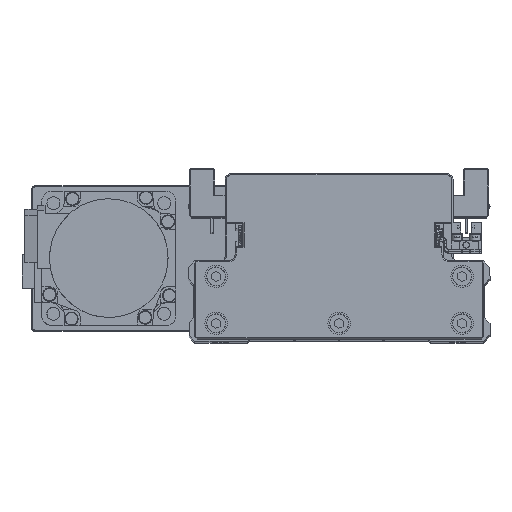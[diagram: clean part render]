
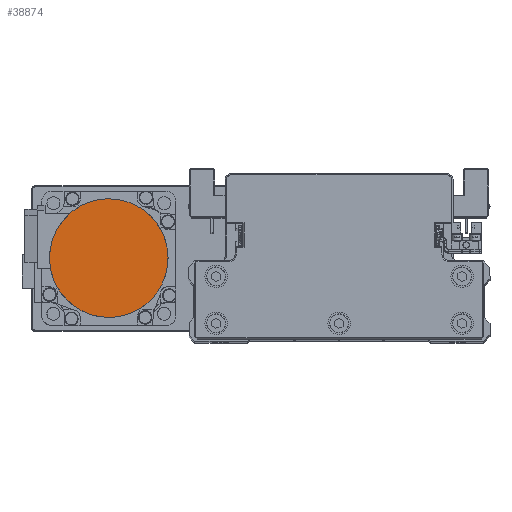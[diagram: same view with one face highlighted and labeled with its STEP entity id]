
A CAD part, top view. The second image highlights one B-rep face of the part: STEP entity #38874.
In plain terms, the highlighted planar face has unit normal (0, 0, 1) as drawn and (0, 0, -1) by its records, which use the part's own axes.
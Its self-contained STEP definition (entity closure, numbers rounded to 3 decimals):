
#730 = DIRECTION ( 'NONE',  ( 1., 0., 0. ) ) ;
#1499 = CARTESIAN_POINT ( 'NONE',  ( -8.539, -25.147, -109.7 ) ) ;
#1697 = CARTESIAN_POINT ( 'NONE',  ( 21.07, -16.165, -109.7 ) ) ;
#2601 = CARTESIAN_POINT ( 'NONE',  ( 17.512, 19.965, -109.7 ) ) ;
#2809 = CARTESIAN_POINT ( 'NONE',  ( -13.28, 22.998, -109.7 ) ) ;
#3777 = PLANE ( 'NONE',  #3958 ) ;
#3958 = AXIS2_PLACEMENT_3D ( 'NONE', #16176, #28634, #730 ) ;
#4529 = CARTESIAN_POINT ( 'NONE',  ( -16.165, -21.07, -109.7 ) ) ;
#4733 = CARTESIAN_POINT ( 'NONE',  ( 16.165, -21.07, -109.7 ) ) ;
#5639 = CARTESIAN_POINT ( 'NONE',  ( 22.998, 13.28, -109.7 ) ) ;
#5836 = CARTESIAN_POINT ( 'NONE',  ( -6.871, 25.652, -109.7 ) ) ;
#6042 = CARTESIAN_POINT ( 'NONE',  ( -26.5, 1.734, -109.7 ) ) ;
#7579 = CARTESIAN_POINT ( 'NONE',  ( -21.07, -16.165, -109.7 ) ) ;
#7781 = CARTESIAN_POINT ( 'NONE',  ( 8.539, -25.147, -109.7 ) ) ;
#7990 = CARTESIAN_POINT ( 'NONE',  ( 26.5, 0., -109.7 ) ) ;
#8693 = CARTESIAN_POINT ( 'NONE',  ( 25.652, 6.871, -109.7 ) ) ;
#8890 = CARTESIAN_POINT ( 'NONE',  ( 1.734, 26.5, -109.7 ) ) ;
#9092 = CARTESIAN_POINT ( 'NONE',  ( -25.147, 8.539, -109.7 ) ) ;
#10630 = CARTESIAN_POINT ( 'NONE',  ( -25.147, -8.539, -109.7 ) ) ;
#10833 = CARTESIAN_POINT ( 'NONE',  ( 1.734, -26.5, -109.7 ) ) ;
#11036 = CARTESIAN_POINT ( 'NONE',  ( 25.652, -6.871, -109.7 ) ) ;
#11732 = CARTESIAN_POINT ( 'NONE',  ( 26.5, 0., -109.7 ) ) ;
#11946 = CARTESIAN_POINT ( 'NONE',  ( 8.539, 25.147, -109.7 ) ) ;
#12142 = CARTESIAN_POINT ( 'NONE',  ( -21.07, 16.165, -109.7 ) ) ;
#13692 = CARTESIAN_POINT ( 'NONE',  ( -26.5, -1.734, -109.7 ) ) ;
#13898 = CARTESIAN_POINT ( 'NONE',  ( -6.871, -25.652, -109.7 ) ) ;
#14099 = CARTESIAN_POINT ( 'NONE',  ( 22.998, -13.28, -109.7 ) ) ;
#15001 = CARTESIAN_POINT ( 'NONE',  ( 16.165, 21.07, -109.7 ) ) ;
#15209 = CARTESIAN_POINT ( 'NONE',  ( -16.165, 21.07, -109.7 ) ) ;
#16176 = CARTESIAN_POINT ( 'NONE',  ( 0., 0., -109.7 ) ) ;
#16956 = CARTESIAN_POINT ( 'NONE',  ( -13.28, -22.998, -109.7 ) ) ;
#17171 = CARTESIAN_POINT ( 'NONE',  ( 17.512, -19.965, -109.7 ) ) ;
#18064 = CARTESIAN_POINT ( 'NONE',  ( 21.07, 16.165, -109.7 ) ) ;
#18268 = CARTESIAN_POINT ( 'NONE',  ( -8.539, 25.147, -109.7 ) ) ;
#18475 = CARTESIAN_POINT ( 'NONE',  ( -26.5, 0., -109.7 ) ) ;
#18706 = VERTEX_POINT ( 'NONE', #33440 ) ;
#19892 = EDGE_LOOP ( 'NONE', ( #38258, #25385 ) ) ;
#20021 = CARTESIAN_POINT ( 'NONE',  ( -19.965, -17.512, -109.7 ) ) ;
#20223 = CARTESIAN_POINT ( 'NONE',  ( 11.744, -23.819, -109.7 ) ) ;
#21134 = CARTESIAN_POINT ( 'NONE',  ( 25.147, 8.539, -109.7 ) ) ;
#21334 = CARTESIAN_POINT ( 'NONE',  ( -1.734, 26.5, -109.7 ) ) ;
#21537 = CARTESIAN_POINT ( 'NONE',  ( -25.652, 6.871, -109.7 ) ) ;
#22106 = EDGE_CURVE ( 'NONE', #18706, #31000, #31108, .T. ) ;
#22428 = B_SPLINE_CURVE_WITH_KNOTS ( 'NONE', 3,
 ( #11732, #24202, #36641, #8693, #21134, #33579, #5639, #18064, #30509, #2601, #15001, #27451, #39934, #11946, #24408, #36846, #8890, #21334, #33779, #5836, #18268, #30725, #2809, #15209, #27658, #40135, #12142, #24607, #37045, #9092, #21537, #33982, #6042, #18475 ),
 .UNSPECIFIED., .F., .F.,
 ( 4, 2, 2, 2, 2, 2, 2, 2, 2, 2, 2, 2, 2, 2, 2, 2, 4 ),
 ( 0., 0.062, 0.125, 0.187, 0.25, 0.312, 0.375, 0.437, 0.5, 0.562, 0.625, 0.687, 0.75, 0.813, 0.875, 0.938, 1. ),
 .UNSPECIFIED. ) ;
#23089 = CARTESIAN_POINT ( 'NONE',  ( -23.819, -11.744, -109.7 ) ) ;
#23285 = CARTESIAN_POINT ( 'NONE',  ( 3.469, -26.329, -109.7 ) ) ;
#23493 = CARTESIAN_POINT ( 'NONE',  ( 26.329, -3.469, -109.7 ) ) ;
#24202 = CARTESIAN_POINT ( 'NONE',  ( 26.5, 1.734, -109.7 ) ) ;
#24408 = CARTESIAN_POINT ( 'NONE',  ( 6.871, 25.652, -109.7 ) ) ;
#24607 = CARTESIAN_POINT ( 'NONE',  ( -22.998, 13.28, -109.7 ) ) ;
#25385 = ORIENTED_EDGE ( 'NONE', *, *, #22106, .F. ) ;
#26157 = CARTESIAN_POINT ( 'NONE',  ( -26.329, -3.469, -109.7 ) ) ;
#26355 = CARTESIAN_POINT ( 'NONE',  ( -3.469, -26.329, -109.7 ) ) ;
#26549 = CARTESIAN_POINT ( 'NONE',  ( 23.819, -11.744, -109.7 ) ) ;
#27404 = EDGE_CURVE ( 'NONE', #31000, #18706, #22428, .T. ) ;
#27451 = CARTESIAN_POINT ( 'NONE',  ( 13.28, 22.998, -109.7 ) ) ;
#27658 = CARTESIAN_POINT ( 'NONE',  ( -17.512, 19.965, -109.7 ) ) ;
#28634 = DIRECTION ( 'NONE',  ( 0., 0., 1. ) ) ;
#29405 = CARTESIAN_POINT ( 'NONE',  ( -11.744, -23.819, -109.7 ) ) ;
#29605 = CARTESIAN_POINT ( 'NONE',  ( 19.965, -17.512, -109.7 ) ) ;
#30509 = CARTESIAN_POINT ( 'NONE',  ( 19.965, 17.512, -109.7 ) ) ;
#30725 = CARTESIAN_POINT ( 'NONE',  ( -11.744, 23.819, -109.7 ) ) ;
#31000 = VERTEX_POINT ( 'NONE', #35339 ) ;
#31108 = B_SPLINE_CURVE_WITH_KNOTS ( 'NONE', 3,
 ( #32287, #13692, #26157, #38610, #10630, #23089, #35527, #7579, #20021, #32484, #4529, #16956, #29405, #1499, #13898, #26355, #38809, #10833, #23285, #35729, #7781, #20223, #32691, #4733, #17171, #29605, #1697, #14099, #26549, #39006, #11036, #23493, #35934, #7990 ),
 .UNSPECIFIED., .F., .F.,
 ( 4, 2, 2, 2, 2, 2, 2, 2, 2, 2, 2, 2, 2, 2, 2, 2, 4 ),
 ( 0., 0.063, 0.125, 0.188, 0.25, 0.312, 0.375, 0.437, 0.5, 0.562, 0.625, 0.687, 0.75, 0.813, 0.875, 0.938, 1. ),
 .UNSPECIFIED. ) ;
#31715 = FACE_OUTER_BOUND ( 'NONE', #19892, .T. ) ;
#32287 = CARTESIAN_POINT ( 'NONE',  ( -26.5, 0., -109.7 ) ) ;
#32484 = CARTESIAN_POINT ( 'NONE',  ( -17.512, -19.965, -109.7 ) ) ;
#32691 = CARTESIAN_POINT ( 'NONE',  ( 13.28, -22.998, -109.7 ) ) ;
#33440 = CARTESIAN_POINT ( 'NONE',  ( -26.5, 0., -109.7 ) ) ;
#33579 = CARTESIAN_POINT ( 'NONE',  ( 23.819, 11.744, -109.7 ) ) ;
#33779 = CARTESIAN_POINT ( 'NONE',  ( -3.469, 26.329, -109.7 ) ) ;
#33982 = CARTESIAN_POINT ( 'NONE',  ( -26.329, 3.469, -109.7 ) ) ;
#35339 = CARTESIAN_POINT ( 'NONE',  ( 26.5, 0., -109.7 ) ) ;
#35527 = CARTESIAN_POINT ( 'NONE',  ( -22.998, -13.28, -109.7 ) ) ;
#35729 = CARTESIAN_POINT ( 'NONE',  ( 6.871, -25.652, -109.7 ) ) ;
#35934 = CARTESIAN_POINT ( 'NONE',  ( 26.5, -1.734, -109.7 ) ) ;
#36641 = CARTESIAN_POINT ( 'NONE',  ( 26.329, 3.469, -109.7 ) ) ;
#36846 = CARTESIAN_POINT ( 'NONE',  ( 3.469, 26.329, -109.7 ) ) ;
#37045 = CARTESIAN_POINT ( 'NONE',  ( -23.819, 11.744, -109.7 ) ) ;
#38258 = ORIENTED_EDGE ( 'NONE', *, *, #27404, .F. ) ;
#38610 = CARTESIAN_POINT ( 'NONE',  ( -25.652, -6.871, -109.7 ) ) ;
#38809 = CARTESIAN_POINT ( 'NONE',  ( -1.734, -26.5, -109.7 ) ) ;
#38874 = ADVANCED_FACE ( 'NONE', ( #31715 ), #3777, .F. ) ;
#39006 = CARTESIAN_POINT ( 'NONE',  ( 25.147, -8.539, -109.7 ) ) ;
#39934 = CARTESIAN_POINT ( 'NONE',  ( 11.744, 23.819, -109.7 ) ) ;
#40135 = CARTESIAN_POINT ( 'NONE',  ( -19.965, 17.512, -109.7 ) ) ;
